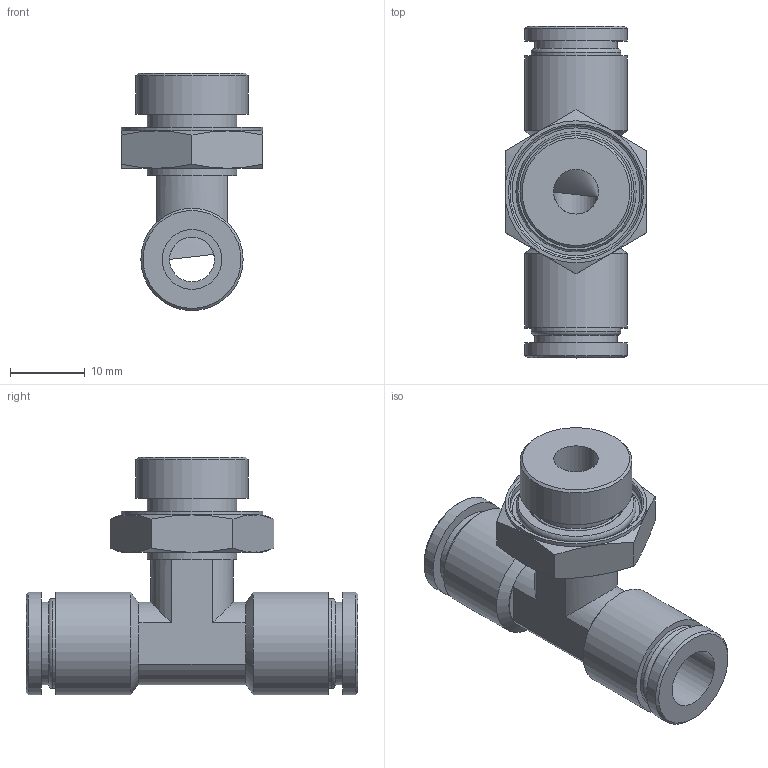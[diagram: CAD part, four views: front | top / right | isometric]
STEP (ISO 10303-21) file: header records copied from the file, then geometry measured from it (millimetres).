
FILE_DESCRIPTION(/* description */ (''),/* implementation_level */ '2;1');
FILE_NAME(/* name */ 'LXH38 0008 B3.stp',/* time_stamp */ '2026-04-24T19:07:41+02:00',/* author */ ('freju'),/* organization */ (''),/* preprocessor_version */ 'ST-DEVELOPER v20.1',/* originating_system */ 'Autodesk Inventor 2026',/* authorisation */ '');
FILE_SCHEMA (('AUTOMOTIVE_DESIGN { 1 0 10303 214 3 1 1 }'));
Length unit declared in the file: millimetre
Products named in the file (4): LXH38 0008 B3; LXH38 0008 B3_1; O-Ring; ISO 3601-1 - A 0125 G
Assembly tree (3 placements, depth 3):
  LXH38 0008 B3
    LXH38 0008 B3_1
    O-Ring
      ISO 3601-1 - A 0125 G
Bounding box: 19 x 44.4 x 31.75 mm (x, y, z)
Volume: 6320.7 mm3; surface area: 5482.4 mm2
Topology: 2 solids, 2 shells, 75 faces, 162 edges, 102 vertices
Faces by surface type: plane 29, cylinder 21, cone 17, torus 8
Full cylindrical faces by diameter (mm): 6 x2, 8 x2, 11 x3, 12 x4, 12.5 x1, 13.7 x4, 15 x1, 17.7 x1, 19 x1
Entity records: 2192 total; most frequent: CARTESIAN_POINT 394, DIRECTION 392, ORIENTED_EDGE 324, AXIS2_PLACEMENT_3D 172, EDGE_CURVE 162, VERTEX_POINT 102, EDGE_LOOP 92, CIRCLE 86
